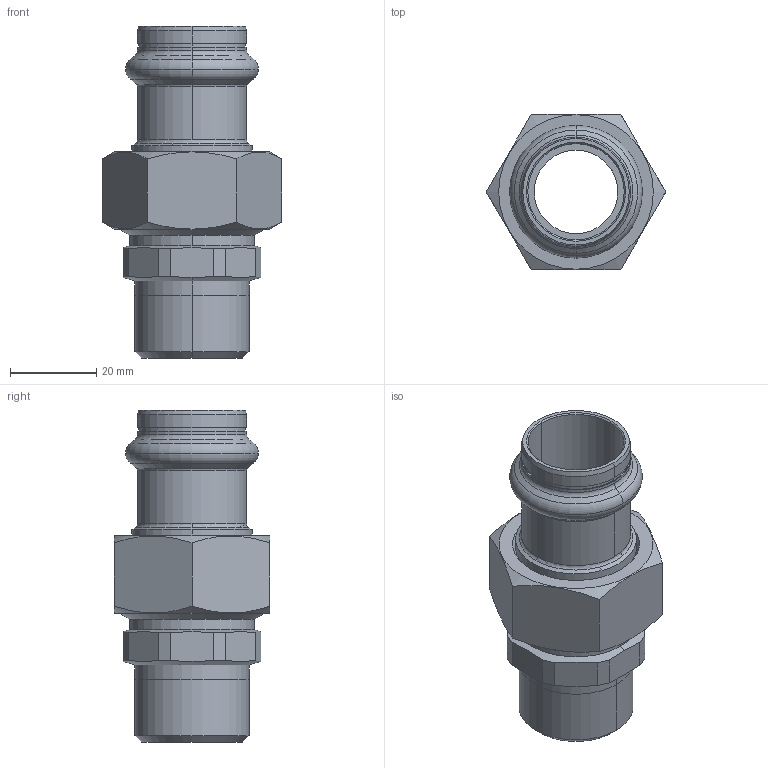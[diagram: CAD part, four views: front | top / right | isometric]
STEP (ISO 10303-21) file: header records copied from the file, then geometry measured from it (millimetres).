
FILE_DESCRIPTION(('CoCreate Modeling STEP Export'),'2;1');
FILE_NAME('8331GVW2234.stp','2013-03-05T12:46:01',(''),(''),'CoCreate Modeling STEP processor for AP214 (Solid Model)','CoCreate Modeling 17.00A 17-Jun-2010 (C) Parametric Technology GmbH','');
FILE_SCHEMA(('AUTOMOTIVE_DESIGN { 1 0 10303 214 1 1 1 1 }'));
Length unit declared in the file: millimetre
Products named in the file (4): DRAAD; MOER; Wartelpuntstuk_C-pr_22x1.1; 8331GVW2234
Assembly tree (3 placements, depth 2):
  8331GVW2234
    Wartelpuntstuk_C-pr_22x1.1
    MOER
    DRAAD
Bounding box: 41.57 x 36 x 77 mm (x, y, z)
Volume: 28838.6 mm3; surface area: 18193 mm2
Topology: 3 solids, 3 shells, 122 faces, 292 edges, 180 vertices
Faces by surface type: cylinder 40, cone 36, plane 32, torus 14
Entity records: 4895 total; most frequent: CARTESIAN_POINT 2338, ORIENTED_EDGE 584, DIRECTION 382, EDGE_CURVE 292, VERTEX_POINT 180, AXIS2_PLACEMENT_3D 142, EDGE_LOOP 132, FACE_OUTER_BOUND 122
